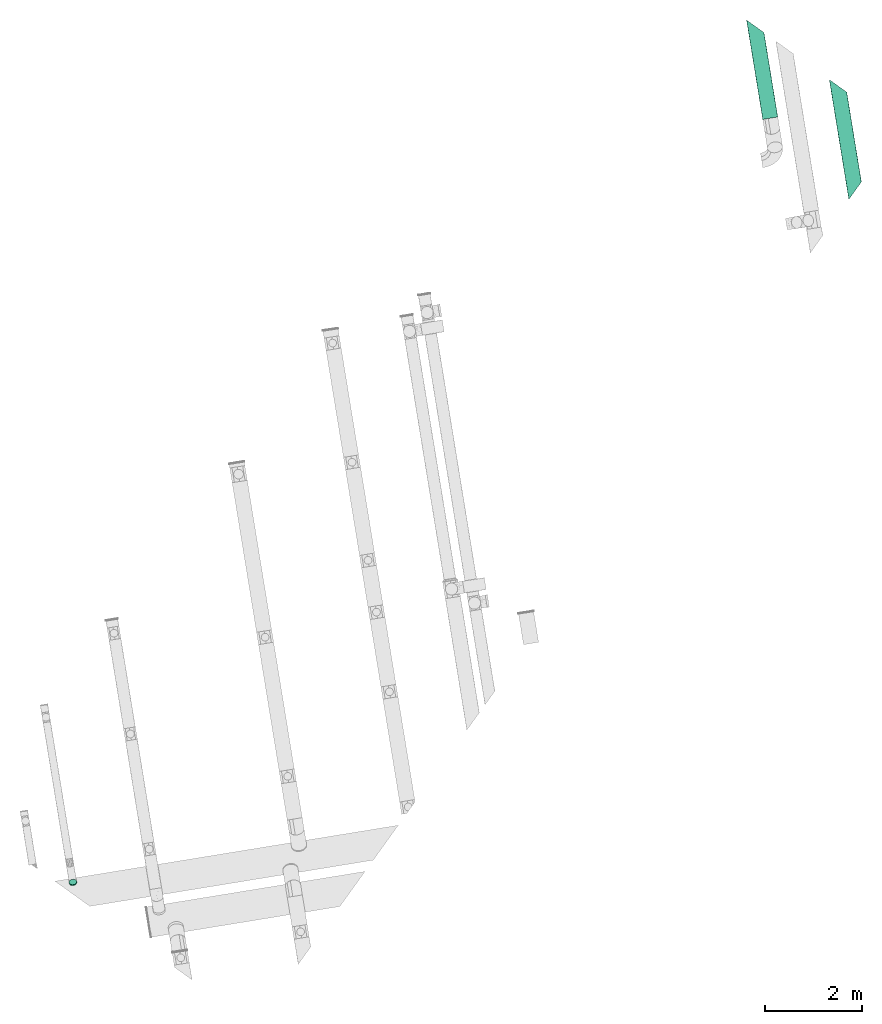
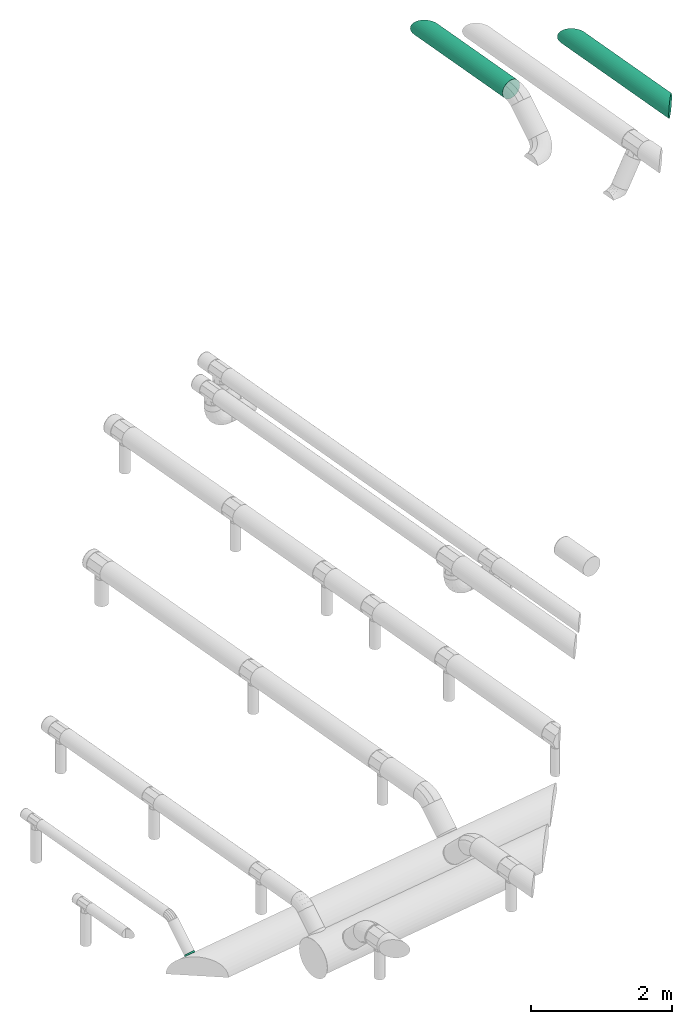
# One storey, part 8 of 15: 2 flow segments, 1 flow fitting.
"""IFC2X3 building model written with IfcOpenShell, lengths in millimetres."""

from ifc_helpers import new_model, entity, si_unit, converted_unit, derived_unit, direction, frame, origin, origin_with_axes, place, context, subcontext, project, spatial, faceted_brep, source, transform, mapped, material, type_object, element, save


model = new_model("IFC2X3")

# Units and contexts
model_context = context("Model", 3, precision=0.01, world=origin(), true_north=direction((6.12323399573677e-17, 1.0)))
plan_context = context("Plan", 3, precision=1e-05, world=origin_with_axes())
body_context = subcontext(model_context, "Body", "Model", "MODEL_VIEW")
ifc_project = project(units=[converted_unit("PLANEANGLEUNIT", "DEGREE", entity("IfcPositiveLengthMeasure", 0.0174532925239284), si_unit("PLANEANGLEUNIT", "RADIAN"), dimensions=[0, 0, 0, 0, 0, 0, 0]), si_unit("AREAUNIT", "SQUARE_METRE"), si_unit("LENGTHUNIT", "METRE", prefix="MILLI"), si_unit("MASSUNIT", "GRAM", prefix="KILO"), si_unit("POWERUNIT", "WATT"), si_unit("PRESSUREUNIT", "PASCAL", prefix="KILO"), si_unit("FORCEUNIT", "NEWTON", prefix="KILO"), si_unit("ELECTRICVOLTAGEUNIT", "VOLT"), si_unit("ELECTRICCURRENTUNIT", "AMPERE"), si_unit("THERMODYNAMICTEMPERATUREUNIT", "DEGREE_CELSIUS"), si_unit("TIMEUNIT", "SECOND"), si_unit("VOLUMEUNIT", "CUBIC_METRE"), derived_unit("LINEARVELOCITYUNIT", [(si_unit("LENGTHUNIT", "METRE"), 1), (si_unit("TIMEUNIT", "SECOND"), -1)]), derived_unit("VOLUMETRICFLOWRATEUNIT", [(si_unit("VOLUMEUNIT", "CUBIC_METRE"), 1), (si_unit("TIMEUNIT", "SECOND"), -1)]), derived_unit("THERMALTRANSMITTANCEUNIT", [(si_unit("POWERUNIT", "WATT"), 1), (si_unit("THERMODYNAMICTEMPERATUREUNIT", "KELVIN"), -1), (si_unit("AREAUNIT", "SQUARE_METRE"), -1)]), derived_unit("SOUNDPRESSUREUNIT", [(si_unit("PRESSUREUNIT", "PASCAL"), 1)])], contexts=[model_context, plan_context])

# Site, building, storey
site_placement = place(None, frame((5.09380697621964e-08, 5.80416781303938e-08, 0.0), z_axis=(0.0, 0.0, 1.0), x_axis=(-0.160806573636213, 0.986985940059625, 0.0)))
site = spatial("IfcSite", under=ifc_project, at=site_placement, Name="Default", CompositionType="ELEMENT")
building_placement = place(site_placement, frame((0.0, 0.0, 0.0), z_axis=(0.0, 0.0, 1.0), x_axis=(1.0, -2.77555756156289e-17, 0.0)))
building = spatial("IfcBuilding", under=site, at=building_placement, Name="Bygning (endres i Project Information)", CompositionType="ELEMENT")
storey_placement = place(building_placement, frame((0.0, 0.0, 51360.0000000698), z_axis=(0.0, 0.0, 1.0), x_axis=(1.0, -2.77555756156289e-17, 0.0)))
storey = spatial("IfcBuildingStorey", under=building, at=storey_placement, Name="H01-Nivå D+0,36", CompositionType="ELEMENT", Elevation=51360.0000000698)

# Flow fitting
ifc_material = material(Name="3601.001 Tilluft")
duct_fitting_type = type_object("IfcDuctFittingType", Name="magicirc_tapoutlet_001:magicirc_tapoutlet_001", PredefinedType="NOTDEFINED", material=ifc_material)
shared_shape = source(origin(), body_context, "Body", "Brep", [
    faceted_brep([(-6.09600000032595, 0.0, -80.0000001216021), (-6.09600000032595, -20.7055236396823, -77.2740662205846), (-6.09600000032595, -40.0000000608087, -69.2820324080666), (-6.09600000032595, -56.5685425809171, -56.568542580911), (-6.09600000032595, -69.2820324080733, -40.0000000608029), (-6.09600000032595, -77.2740662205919, -20.7055236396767), (-6.09600000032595, -80.0000001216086, 0.0), (-6.09600000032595, -77.2740662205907, 20.7055236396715), (-6.09600000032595, -69.2820324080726, 40.0000000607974), (-6.09600000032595, -56.5685425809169, 56.5685425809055), (-6.09600000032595, -40.000000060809, 69.2820324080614), (-6.09600000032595, -20.7055236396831, 77.2740662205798), (-6.09600000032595, 0.0, 80.0000001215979), (-6.09600000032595, 20.705523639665, 77.27406622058), (-6.09600000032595, 40.0000000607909, 69.2820324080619), (-6.09600000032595, 56.5685425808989, 56.5685425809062), (-6.09600000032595, 69.2820324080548, 40.0000000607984), (-6.09600000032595, 77.2740662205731, 20.7055236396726), (-6.09600000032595, 80.0000001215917, 0.0), (-6.09600000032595, 77.2740662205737, -20.7055236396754), (-6.09600000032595, 69.2820324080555, -40.0000000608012), (-6.09600000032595, 56.5685425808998, -56.5685425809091), (-6.09600000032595, 40.0000000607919, -69.2820324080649), (-6.09600000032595, 20.705523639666, -77.2740662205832), (0.0, 0.0, 80.0000001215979), (20.0, 0.0, 80.0000001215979), (20.0, 20.705523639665, 77.27406622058), (0.0, 20.705523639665, 77.27406622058), (20.0, 40.0000000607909, 69.2820324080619), (0.0, 40.0000000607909, 69.2820324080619), (20.0, 56.5685425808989, 56.5685425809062), (0.0, 56.5685425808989, 56.5685425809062), (0.0, 69.2820324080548, 40.0000000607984), (20.0, 69.2820324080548, 40.0000000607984), (20.0, 77.2740662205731, 20.7055236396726), (0.0, 77.2740662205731, 20.7055236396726), (20.0, 80.0000001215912, 0.0), (0.0, 80.0000001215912, 0.0), (20.0, 77.2740662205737, -20.7055236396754), (0.0, 77.2740662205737, -20.7055236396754), (20.0, 69.2820324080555, -40.0000000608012), (0.0, 69.2820324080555, -40.0000000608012), (20.0, 56.5685425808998, -56.5685425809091), (0.0, 56.5685425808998, -56.5685425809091), (0.0, 20.705523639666, -77.2740662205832), (20.0, 20.705523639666, -77.2740662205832), (20.0, 0.0, -80.0000001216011), (0.0, 0.0, -80.0000001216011), (0.0, 40.0000000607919, -69.2820324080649), (20.0, 40.0000000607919, -69.2820324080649), (20.0, -20.7055236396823, -77.2740662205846), (0.0, -20.7055236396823, -77.2740662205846), (20.0, -40.0000000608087, -69.2820324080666), (0.0, -40.0000000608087, -69.2820324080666), (20.0, -56.5685425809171, -56.568542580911), (0.0, -56.5685425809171, -56.568542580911), (0.0, -69.2820324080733, -40.0000000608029), (20.0, -69.2820324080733, -40.0000000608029), (20.0, -77.2740662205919, -20.7055236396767), (0.0, -77.2740662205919, -20.7055236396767), (20.0, -80.00000012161, 0.0), (0.0, -80.00000012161, 0.0), (20.0, -77.2740662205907, 20.7055236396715), (0.0, -77.2740662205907, 20.7055236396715), (20.0, -69.2820324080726, 40.0000000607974), (0.0, -69.2820324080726, 40.0000000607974), (20.0, -56.5685425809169, 56.5685425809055), (0.0, -56.5685425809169, 56.5685425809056), (0.0, -40.000000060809, 69.2820324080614), (20.0, -40.000000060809, 69.2820324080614), (20.0, -20.7055236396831, 77.2740662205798), (0.0, -20.7055236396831, 77.2740662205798)], [[[0, 1, 2, 3, 4, 5, 6, 7, 8, 9, 10, 11, 12, 13, 14, 15, 16, 17, 18, 19, 20, 21, 22, 23]], [[12, 24, 25, 26, 27, 13]], [[13, 27, 26, 28, 29, 14]], [[14, 29, 28, 30, 31, 15]], [[16, 32, 33, 34, 35, 17]], [[17, 35, 34, 36, 37, 18]], [[15, 31, 30, 33, 32, 16]], [[18, 37, 36, 38, 39, 19]], [[19, 39, 38, 40, 41, 20]], [[20, 41, 40, 42, 43, 21]], [[44, 45, 46, 47, 0, 23]], [[48, 49, 45, 44, 23, 22]], [[21, 43, 42, 49, 48, 22]], [[0, 47, 46, 50, 51, 1]], [[1, 51, 50, 52, 53, 2]], [[2, 53, 52, 54, 55, 3]], [[4, 56, 57, 58, 59, 5]], [[5, 59, 58, 60, 61, 6]], [[3, 55, 54, 57, 56, 4]], [[6, 61, 60, 62, 63, 7]], [[7, 63, 62, 64, 65, 8]], [[8, 65, 64, 66, 67, 9]], [[10, 68, 69, 70, 71, 11]], [[11, 71, 70, 25, 24, 12]], [[9, 67, 66, 69, 68, 10]], [[36, 34, 33, 30, 28, 26, 25, 70, 69, 66, 64, 62, 60, 58, 57, 54, 52, 50, 46, 45, 49, 42, 40, 38]]]),
    faceted_brep([(20.0, 80.0000001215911, 0.0), (20.0, 77.274066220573, 20.7055236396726), (20.0, 69.2820324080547, 40.0000000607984), (20.0, 56.5685425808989, 56.5685425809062), (20.0, 40.0000000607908, 69.2820324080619), (20.0, 20.7055236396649, 77.27406622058), (20.0, 0.0, 80.0000001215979), (20.0, -20.7055236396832, 77.2740662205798), (20.0, -40.0000000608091, 69.2820324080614), (20.0, -56.568542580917, 56.5685425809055), (20.0, -69.2820324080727, 40.0000000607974), (20.0, -77.2740662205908, 20.7055236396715), (20.0, -80.0000001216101, 0.0), (20.0, -77.274066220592, -20.7055236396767), (20.0, -69.2820324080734, -40.0000000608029), (20.0, -56.5685425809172, -56.568542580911), (20.0, -40.0000000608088, -69.2820324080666), (20.0, -20.7055236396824, -77.2740662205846), (20.0, 0.0, -80.0000001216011), (20.0, 20.705523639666, -77.2740662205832), (20.0, 40.0000000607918, -69.2820324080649), (20.0, 56.5685425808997, -56.5685425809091), (20.0, 69.2820324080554, -40.0000000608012), (20.0, 77.2740662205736, -20.7055236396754), (0.0, 0.0, 80.0000001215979), (0.0, 20.705523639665, 77.27406622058), (-6.09600000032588, 20.7055236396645, 77.27406622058), (-6.09600000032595, 0.0, 80.0000001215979), (0.0, 40.0000000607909, 69.2820324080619), (-6.09600000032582, 40.0000000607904, 69.2820324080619), (0.0, 56.5685425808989, 56.5685425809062), (-6.09600000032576, 56.5685425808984, 56.5685425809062), (0.0, 69.2820324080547, 40.0000000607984), (0.0, 77.2740662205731, 20.7055236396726), (-6.09600000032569, 77.2740662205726, 20.7055236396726), (-6.09600000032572, 69.2820324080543, 40.0000000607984), (0.0, 80.0000001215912, 0.0), (-6.09600000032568, 80.0000001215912, 0.0), (0.0, 77.2740662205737, -20.7055236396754), (-6.09600000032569, 77.2740662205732, -20.7055236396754), (0.0, 69.2820324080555, -40.0000000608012), (-6.09600000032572, 69.282032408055, -40.0000000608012), (0.0, 56.5685425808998, -56.5685425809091), (-6.09600000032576, 56.5685425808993, -56.5685425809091), (0.0, 0.0, -80.0000001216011), (-6.09600000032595, 0.0, -80.0000001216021), (-6.09600000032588, 20.7055236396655, -77.2740662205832), (0.0, 20.705523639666, -77.2740662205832), (-6.09600000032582, 40.0000000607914, -69.2820324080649), (0.0, 40.0000000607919, -69.2820324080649), (0.0, -20.7055236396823, -77.2740662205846), (-6.09600000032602, -20.7055236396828, -77.2740662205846), (0.0, -40.0000000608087, -69.2820324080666), (-6.09600000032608, -40.0000000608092, -69.2820324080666), (0.0, -56.5685425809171, -56.568542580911), (-6.09600000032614, -56.5685425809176, -56.568542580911), (0.0, -69.2820324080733, -40.0000000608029), (0.0, -77.2740662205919, -20.7055236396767), (-6.09600000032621, -77.2740662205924, -20.7055236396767), (-6.09600000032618, -69.2820324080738, -40.0000000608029), (0.0, -80.00000012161, 0.0), (-6.09600000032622, -80.0000001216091, 0.0), (0.0, -77.2740662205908, 20.7055236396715), (-6.09600000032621, -77.2740662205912, 20.7055236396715), (0.0, -69.2820324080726, 40.0000000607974), (-6.09600000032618, -69.2820324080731, 40.0000000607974), (0.0, -56.5685425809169, 56.5685425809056), (-6.09600000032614, -56.5685425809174, 56.5685425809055), (0.0, -40.000000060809, 69.2820324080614), (0.0, -20.7055236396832, 77.2740662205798), (-6.09600000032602, -20.7055236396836, 77.2740662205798), (-6.09600000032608, -40.0000000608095, 69.2820324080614)], [[[0, 1, 2, 3, 4, 5, 6, 7, 8, 9, 10, 11, 12, 13, 14, 15, 16, 17, 18, 19, 20, 21, 22, 23]], [[24, 6, 5, 25, 26, 27]], [[25, 5, 4, 28, 29, 26]], [[28, 4, 3, 30, 31, 29]], [[32, 2, 1, 33, 34, 35]], [[33, 1, 0, 36, 37, 34]], [[30, 3, 2, 32, 35, 31]], [[36, 0, 23, 38, 39, 37]], [[38, 23, 22, 40, 41, 39]], [[40, 22, 21, 42, 43, 41]], [[19, 18, 44, 45, 46, 47]], [[20, 19, 47, 46, 48, 49]], [[42, 21, 20, 49, 48, 43]], [[44, 18, 17, 50, 51, 45]], [[50, 17, 16, 52, 53, 51]], [[52, 16, 15, 54, 55, 53]], [[56, 14, 13, 57, 58, 59]], [[57, 13, 12, 60, 61, 58]], [[54, 15, 14, 56, 59, 55]], [[60, 12, 11, 62, 63, 61]], [[62, 11, 10, 64, 65, 63]], [[64, 10, 9, 66, 67, 65]], [[68, 8, 7, 69, 70, 71]], [[69, 7, 6, 24, 27, 70]], [[66, 9, 8, 68, 71, 67]], [[45, 51, 53, 55, 59, 58, 61, 63, 65, 67, 71, 70, 27, 26, 29, 31, 35, 34, 37, 39, 41, 43, 48, 46]]]),
    faceted_brep([(-6.09600000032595, 0.0, -80.0000001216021), (-6.09600000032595, -20.7055236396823, -77.2740662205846), (-6.09600000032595, -40.0000000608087, -69.2820324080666), (-6.09600000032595, -56.5685425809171, -56.568542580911), (-6.09600000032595, -69.2820324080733, -40.0000000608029), (-6.09600000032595, -77.2740662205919, -20.7055236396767), (-6.09600000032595, -80.0000001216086, 0.0), (-6.09600000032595, -77.2740662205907, 20.7055236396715), (-6.09600000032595, -69.2820324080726, 40.0000000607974), (-6.09600000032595, -56.5685425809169, 56.5685425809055), (-6.09600000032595, -40.000000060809, 69.2820324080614), (-6.09600000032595, -20.7055236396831, 77.2740662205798), (-6.09600000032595, 0.0, 80.0000001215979), (-6.09600000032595, 20.705523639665, 77.27406622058), (-6.09600000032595, 40.0000000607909, 69.2820324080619), (-6.09600000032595, 56.5685425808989, 56.5685425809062), (-6.09600000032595, 69.2820324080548, 40.0000000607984), (-6.09600000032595, 77.2740662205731, 20.7055236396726), (-6.09600000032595, 80.0000001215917, 0.0), (-6.09600000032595, 77.2740662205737, -20.7055236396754), (-6.09600000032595, 69.2820324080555, -40.0000000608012), (-6.09600000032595, 56.5685425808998, -56.5685425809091), (-6.09600000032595, 40.0000000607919, -69.2820324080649), (-6.09600000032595, 20.705523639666, -77.2740662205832), (0.0, 0.0, 80.0000001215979), (20.0, 0.0, 80.0000001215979), (20.0, 20.705523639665, 77.27406622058), (0.0, 20.705523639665, 77.27406622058), (20.0, 40.0000000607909, 69.2820324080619), (0.0, 40.0000000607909, 69.2820324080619), (20.0, 56.5685425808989, 56.5685425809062), (0.0, 56.5685425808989, 56.5685425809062), (0.0, 69.2820324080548, 40.0000000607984), (20.0, 69.2820324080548, 40.0000000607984), (20.0, 77.2740662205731, 20.7055236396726), (0.0, 77.2740662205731, 20.7055236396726), (20.0, 80.0000001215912, 0.0), (0.0, 80.0000001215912, 0.0), (20.0, 77.2740662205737, -20.7055236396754), (0.0, 77.2740662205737, -20.7055236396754), (20.0, 69.2820324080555, -40.0000000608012), (0.0, 69.2820324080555, -40.0000000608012), (20.0, 56.5685425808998, -56.5685425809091), (0.0, 56.5685425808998, -56.5685425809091), (0.0, 20.705523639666, -77.2740662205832), (20.0, 20.705523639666, -77.2740662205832), (20.0, 0.0, -80.0000001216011), (0.0, 0.0, -80.0000001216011), (0.0, 40.0000000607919, -69.2820324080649), (20.0, 40.0000000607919, -69.2820324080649), (20.0, -20.7055236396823, -77.2740662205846), (0.0, -20.7055236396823, -77.2740662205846), (20.0, -40.0000000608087, -69.2820324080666), (0.0, -40.0000000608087, -69.2820324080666), (20.0, -56.5685425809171, -56.568542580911), (0.0, -56.5685425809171, -56.568542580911), (0.0, -69.2820324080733, -40.0000000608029), (20.0, -69.2820324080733, -40.0000000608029), (20.0, -77.2740662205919, -20.7055236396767), (0.0, -77.2740662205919, -20.7055236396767), (20.0, -80.00000012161, 0.0), (0.0, -80.00000012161, 0.0), (20.0, -77.2740662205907, 20.7055236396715), (0.0, -77.2740662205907, 20.7055236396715), (20.0, -69.2820324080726, 40.0000000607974), (0.0, -69.2820324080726, 40.0000000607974), (20.0, -56.5685425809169, 56.5685425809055), (0.0, -56.5685425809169, 56.5685425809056), (0.0, -40.000000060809, 69.2820324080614), (20.0, -40.000000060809, 69.2820324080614), (20.0, -20.7055236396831, 77.2740662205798), (0.0, -20.7055236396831, 77.2740662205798)], [[[0, 1, 2, 3, 4, 5, 6, 7, 8, 9, 10, 11, 12, 13, 14, 15, 16, 17, 18, 19, 20, 21, 22, 23]], [[12, 24, 25, 26, 27, 13]], [[13, 27, 26, 28, 29, 14]], [[14, 29, 28, 30, 31, 15]], [[16, 32, 33, 34, 35, 17]], [[17, 35, 34, 36, 37, 18]], [[15, 31, 30, 33, 32, 16]], [[18, 37, 36, 38, 39, 19]], [[19, 39, 38, 40, 41, 20]], [[20, 41, 40, 42, 43, 21]], [[44, 45, 46, 47, 0, 23]], [[48, 49, 45, 44, 23, 22]], [[21, 43, 42, 49, 48, 22]], [[0, 47, 46, 50, 51, 1]], [[1, 51, 50, 52, 53, 2]], [[2, 53, 52, 54, 55, 3]], [[4, 56, 57, 58, 59, 5]], [[5, 59, 58, 60, 61, 6]], [[3, 55, 54, 57, 56, 4]], [[6, 61, 60, 62, 63, 7]], [[7, 63, 62, 64, 65, 8]], [[8, 65, 64, 66, 67, 9]], [[10, 68, 69, 70, 71, 11]], [[11, 71, 70, 25, 24, 12]], [[9, 67, 66, 69, 68, 10]], [[36, 34, 33, 30, 28, 26, 25, 70, 69, 66, 64, 62, 60, 58, 57, 54, 52, 50, 46, 45, 49, 42, 40, 38]]]),
])
flow_fitting_placement = place(storey_placement, frame((995383.012879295, -338465.550404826, 3372.74609710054), z_axis=(0.707130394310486, -1.96268111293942e-17, -0.707083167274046), x_axis=(0.707083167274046, -1.38777878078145e-17, 0.707130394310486)))
element("IfcFlowFitting", 1, at=flow_fitting_placement, inside=storey, type_object=duct_fitting_type, material=ifc_material, Name="magicirc_tapoutlet_001:magicirc_tapoutlet_001", ObjectType="magicirc_tapoutlet_001:magicirc_tapoutlet_001", context=body_context, shape_type="MappedRepresentation", body=[
    mapped(shared_shape, transform((0.0, 0.0, 0.0), scale=1.0)),
])

# Flow segments
duct_segment_type = type_object("IfcDuctSegmentType", Name="Round Duct:Sirkulær kanal", PredefinedType="NOTDEFINED", material=ifc_material)
flow_segment_1_placement = place(storey_placement, frame((0.0, 0.0, 0.0), z_axis=(0.0, 0.0, 1.0), x_axis=(1.0, -2.77555756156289e-17, 0.0)))
element("IfcFlowSegment", 2, at=flow_segment_1_placement, inside=storey, type_object=duct_segment_type, Name="Round Duct:Sirkulær kanal", ObjectType="Round Duct:Sirkulær kanal", context=body_context, shape_type="Brep", body=[
    faceted_brep([(1010672.13429324, -355000.507764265, 3772.65041197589), (1010674.52707214, -354998.11498536, 3800.0), (1008601.70973524, -354998.11498536, 3800.0), (1008601.70973524, -355000.507764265, 3772.65041197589), (1010672.13429324, -355000.507764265, 3827.34958802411), (1008601.70973524, -355000.507764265, 3827.34958802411), (1010665.0286599, -355007.613397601, 3853.86817265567), (1008601.70973524, -355007.613397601, 3853.86817265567), (1010653.42607321, -355019.215984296, 3878.7500001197), (1008601.70973524, -355019.215984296, 3878.7500001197), (1010637.67907188, -355034.962985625, 3901.23904867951), (1008601.70973524, -355034.962985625, 3901.23904867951), (1010618.26612058, -355054.37593692, 3920.65199997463), (1008601.70973524, -355054.37593692, 3920.65199997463), (1010595.77707202, -355076.86498548, 3936.39900130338), (1008601.70973524, -355076.86498548, 3936.39900130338), (1010570.89524456, -355101.746812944, 3948.00158799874), (1008601.70973524, -355101.746812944, 3948.00158799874), (1010544.37665993, -355128.265397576, 3955.10722133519), (1008601.70973524, -355128.265397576, 3955.10722133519), (1010517.0270719, -355155.6149856, 3957.5000002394), (1008601.70973524, -355155.6149856, 3957.5000002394), (1010489.67748388, -355182.964573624, 3955.10722133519), (1008601.70973524, -355182.964573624, 3955.10722133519), (1010463.15889925, -355209.483158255, 3948.00158799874), (1008601.70973524, -355209.483158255, 3948.00158799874), (1010438.27707178, -355234.364985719, 3936.39900130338), (1008601.70973524, -355234.364985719, 3936.39900130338), (1010415.78802322, -355256.854034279, 3920.65199997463), (1008601.70973524, -355256.854034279, 3920.65199997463), (1010396.37507193, -355276.266985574, 3901.23904867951), (1008601.70973524, -355276.266985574, 3901.23904867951), (1010380.6280706, -355292.013986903, 3878.7500001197), (1008601.70973524, -355292.013986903, 3878.7500001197), (1010369.0254839, -355303.616573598, 3853.86817265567), (1008601.70973524, -355303.616573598, 3853.86817265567), (1010361.91985057, -355310.722206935, 3827.34958802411), (1008601.70973524, -355310.722206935, 3827.34958802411), (1010359.52707166, -355313.114985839, 3800.0), (1008601.70973524, -355313.114985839, 3800.0), (1010361.91985057, -355310.722206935, 3772.65041197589), (1008601.70973524, -355310.722206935, 3772.65041197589), (1010369.0254839, -355303.616573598, 3746.13182734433), (1008601.70973524, -355303.616573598, 3746.13182734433), (1010380.6280706, -355292.013986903, 3721.2499998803), (1008601.70973524, -355292.013986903, 3721.2499998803), (1010396.37507193, -355276.266985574, 3698.76095132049), (1008601.70973524, -355276.266985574, 3698.76095132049), (1010415.78802322, -355256.854034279, 3679.34800002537), (1008601.70973524, -355256.854034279, 3679.34800002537), (1010438.27707178, -355234.364985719, 3663.60099869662), (1008601.70973524, -355234.364985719, 3663.60099869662), (1010463.15889925, -355209.483158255, 3651.99841200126), (1008601.70973524, -355209.483158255, 3651.99841200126), (1010489.67748388, -355182.964573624, 3644.89277866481), (1008601.70973524, -355182.964573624, 3644.89277866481), (1010517.0270719, -355155.6149856, 3642.4999997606), (1008601.70973524, -355155.6149856, 3642.4999997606), (1010544.37665993, -355128.265397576, 3644.89277866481), (1008601.70973524, -355128.265397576, 3644.89277866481), (1010570.89524456, -355101.746812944, 3651.99841200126), (1008601.70973524, -355101.746812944, 3651.99841200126), (1010595.77707202, -355076.86498548, 3663.60099869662), (1008601.70973524, -355076.86498548, 3663.60099869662), (1010618.26612058, -355054.37593692, 3679.34800002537), (1008601.70973524, -355054.37593692, 3679.34800002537), (1010637.67907188, -355034.962985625, 3698.76095132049), (1008601.70973524, -355034.962985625, 3698.76095132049), (1010653.42607321, -355019.215984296, 3721.2499998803), (1008601.70973524, -355019.215984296, 3721.2499998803), (1010665.0286599, -355007.613397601, 3746.13182734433), (1008601.70973524, -355007.613397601, 3746.13182734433)], [[[0, 1, 2, 3]], [[1, 4, 5, 2]], [[4, 6, 7, 5]], [[6, 8, 9, 7]], [[8, 10, 11, 9]], [[10, 12, 13, 11]], [[12, 14, 15, 13]], [[14, 16, 17, 15]], [[16, 18, 19, 17]], [[18, 20, 21, 19]], [[20, 22, 23, 21]], [[22, 24, 25, 23]], [[24, 26, 27, 25]], [[26, 28, 29, 27]], [[28, 30, 31, 29]], [[30, 32, 33, 31]], [[32, 34, 35, 33]], [[34, 36, 37, 35]], [[36, 38, 39, 37]], [[38, 40, 41, 39]], [[40, 42, 43, 41]], [[42, 44, 45, 43]], [[44, 46, 47, 45]], [[46, 48, 49, 47]], [[48, 50, 51, 49]], [[50, 52, 53, 51]], [[52, 54, 55, 53]], [[54, 56, 57, 55]], [[56, 58, 59, 57]], [[58, 60, 61, 59]], [[60, 62, 63, 61]], [[62, 64, 65, 63]], [[64, 66, 67, 65]], [[66, 68, 69, 67]], [[68, 70, 71, 69]], [[70, 0, 3, 71]], [[3, 2, 5, 7, 9, 11, 13, 15, 17, 19, 21, 23, 25, 27, 29, 31, 33, 35, 37, 39, 41, 43, 45, 47, 49, 51, 53, 55, 57, 59, 61, 63, 65, 67, 69, 71]], [[70, 68, 66, 64, 62, 60, 58, 56, 54, 52, 50, 48, 46, 44, 42, 40, 38, 36, 34, 32, 30, 28, 26, 24, 22, 20, 18, 16, 14, 12, 10, 8, 6, 4, 1, 0]]], orient=[[False], [False], [False], [False], [False], [False], [False], [False], [False], [False], [False], [False], [False], [False], [False], [False], [False], [False], [False], [False], [False], [False], [False], [False], [False], [False], [False], [False], [False], [False], [False], [False], [False], [False], [False], [False], [False], [False]]),
])
flow_segment_2_placement = place(storey_placement, frame((0.0, 0.0, 0.0), z_axis=(0.0, 0.0, 1.0), x_axis=(1.0, -2.77555756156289e-17, 0.0)))
element("IfcFlowSegment", 3, at=flow_segment_2_placement, inside=storey, type_object=duct_segment_type, Name="Round Duct:Sirkulær kanal", ObjectType="Round Duct:Sirkulær kanal", context=body_context, shape_type="Brep", body=[
    faceted_brep([(1009188.43099368, -356484.21106382, 3772.65041197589), (1009190.82377259, -356481.818284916, 3800.0), (1006691.02690003, -356481.818284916, 3800.0), (1006693.41967894, -356484.21106382, 3772.65041197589), (1009188.43099368, -356484.21106382, 3827.34958802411), (1006693.41967894, -356484.21106382, 3827.34958802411), (1009181.32536035, -356491.316697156, 3853.86817265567), (1006700.52531227, -356491.316697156, 3853.86817265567), (1009169.72277365, -356502.919283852, 3878.7500001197), (1006712.12789897, -356502.919283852, 3878.7500001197), (1009153.97577232, -356518.666285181, 3901.23904867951), (1006727.8749003, -356518.666285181, 3901.23904867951), (1009134.56282103, -356538.079236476, 3920.65199997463), (1006747.28785159, -356538.079236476, 3920.65199997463), (1009112.07377247, -356560.568285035, 3936.39900130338), (1006769.77690015, -356560.568285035, 3936.39900130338), (1009087.191945, -356585.4501125, 3948.00158799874), (1006794.65872761, -356585.4501125, 3948.00158799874), (1009060.67336037, -356611.968697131, 3955.10722133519), (1006821.17731225, -356611.968697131, 3955.10722133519), (1009033.32377235, -356639.318285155, 3957.5000002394), (1006848.52690027, -356639.318285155, 3957.5000002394), (1009005.97418432, -356666.667873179, 3955.10722133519), (1006875.87648829, -356666.667873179, 3955.10722133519), (1008979.45559969, -356693.186457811, 3948.00158799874), (1006902.39507293, -356693.186457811, 3948.00158799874), (1008954.57377223, -356718.068285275, 3936.39900130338), (1006927.27690039, -356718.068285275, 3936.39900130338), (1008932.08472367, -356740.557333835, 3920.65199997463), (1006949.76594895, -356740.557333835, 3920.65199997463), (1008912.67177237, -356759.97028513, 3901.23904867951), (1006969.17890025, -356759.97028513, 3901.23904867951), (1008896.92477104, -356775.717286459, 3878.7500001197), (1006984.92590157, -356775.717286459, 3878.7500001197), (1008885.32218435, -356787.319873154, 3853.86817265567), (1006996.52848827, -356787.319873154, 3853.86817265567), (1008878.21655101, -356794.42550649, 3827.34958802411), (1007003.63412161, -356794.42550649, 3827.34958802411), (1008875.82377211, -356796.818285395, 3800.0), (1007006.02690051, -356796.818285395, 3800.0), (1008878.21655101, -356794.42550649, 3772.65041197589), (1007003.63412161, -356794.42550649, 3772.65041197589), (1008885.32218435, -356787.319873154, 3746.13182734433), (1006996.52848827, -356787.319873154, 3746.13182734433), (1008896.92477104, -356775.717286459, 3721.2499998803), (1006984.92590157, -356775.717286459, 3721.2499998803), (1008912.67177237, -356759.97028513, 3698.76095132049), (1006969.17890025, -356759.97028513, 3698.76095132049), (1008932.08472367, -356740.557333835, 3679.34800002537), (1006949.76594895, -356740.557333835, 3679.34800002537), (1008954.57377223, -356718.068285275, 3663.60099869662), (1006927.27690039, -356718.068285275, 3663.60099869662), (1008979.45559969, -356693.186457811, 3651.99841200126), (1006902.39507293, -356693.186457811, 3651.99841200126), (1009005.97418432, -356666.667873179, 3644.89277866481), (1006875.87648829, -356666.667873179, 3644.89277866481), (1009033.32377235, -356639.318285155, 3642.4999997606), (1006848.52690027, -356639.318285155, 3642.4999997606), (1009060.67336037, -356611.968697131, 3644.89277866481), (1006821.17731225, -356611.968697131, 3644.89277866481), (1009087.191945, -356585.4501125, 3651.99841200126), (1006794.65872761, -356585.4501125, 3651.99841200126), (1009112.07377247, -356560.568285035, 3663.60099869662), (1006769.77690015, -356560.568285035, 3663.60099869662), (1009134.56282103, -356538.079236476, 3679.34800002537), (1006747.28785159, -356538.079236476, 3679.34800002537), (1009153.97577232, -356518.666285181, 3698.76095132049), (1006727.8749003, -356518.666285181, 3698.76095132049), (1009169.72277365, -356502.919283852, 3721.2499998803), (1006712.12789897, -356502.919283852, 3721.2499998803), (1009181.32536035, -356491.316697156, 3746.13182734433), (1006700.52531227, -356491.316697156, 3746.13182734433)], [[[0, 1, 2, 3]], [[1, 4, 5, 2]], [[4, 6, 7, 5]], [[6, 8, 9, 7]], [[8, 10, 11, 9]], [[10, 12, 13, 11]], [[12, 14, 15, 13]], [[14, 16, 17, 15]], [[16, 18, 19, 17]], [[18, 20, 21, 19]], [[20, 22, 23, 21]], [[22, 24, 25, 23]], [[24, 26, 27, 25]], [[26, 28, 29, 27]], [[28, 30, 31, 29]], [[30, 32, 33, 31]], [[32, 34, 35, 33]], [[34, 36, 37, 35]], [[36, 38, 39, 37]], [[38, 40, 41, 39]], [[40, 42, 43, 41]], [[42, 44, 45, 43]], [[44, 46, 47, 45]], [[46, 48, 49, 47]], [[48, 50, 51, 49]], [[50, 52, 53, 51]], [[52, 54, 55, 53]], [[54, 56, 57, 55]], [[56, 58, 59, 57]], [[58, 60, 61, 59]], [[60, 62, 63, 61]], [[62, 64, 65, 63]], [[64, 66, 67, 65]], [[66, 68, 69, 67]], [[68, 70, 71, 69]], [[70, 0, 3, 71]], [[70, 68, 66, 64, 62, 60, 58, 56, 54, 52, 50, 48, 46, 44, 42, 40, 38, 36, 34, 32, 30, 28, 26, 24, 22, 20, 18, 16, 14, 12, 10, 8, 6, 4, 1, 0]], [[5, 7, 9, 11, 13, 15, 17, 19, 21, 23, 25, 27, 29, 31, 33, 35, 37, 39, 41, 43, 45, 47, 49, 51, 53, 55, 57, 59, 61, 63, 65, 67, 69, 71, 3, 2]]], orient=[[False], [False], [False], [False], [False], [False], [False], [False], [False], [False], [False], [False], [False], [False], [False], [False], [False], [False], [False], [False], [False], [False], [False], [False], [False], [False], [False], [False], [False], [False], [False], [False], [False], [False], [False], [False], [False], [False]]),
])

save(model, "model.ifc")
